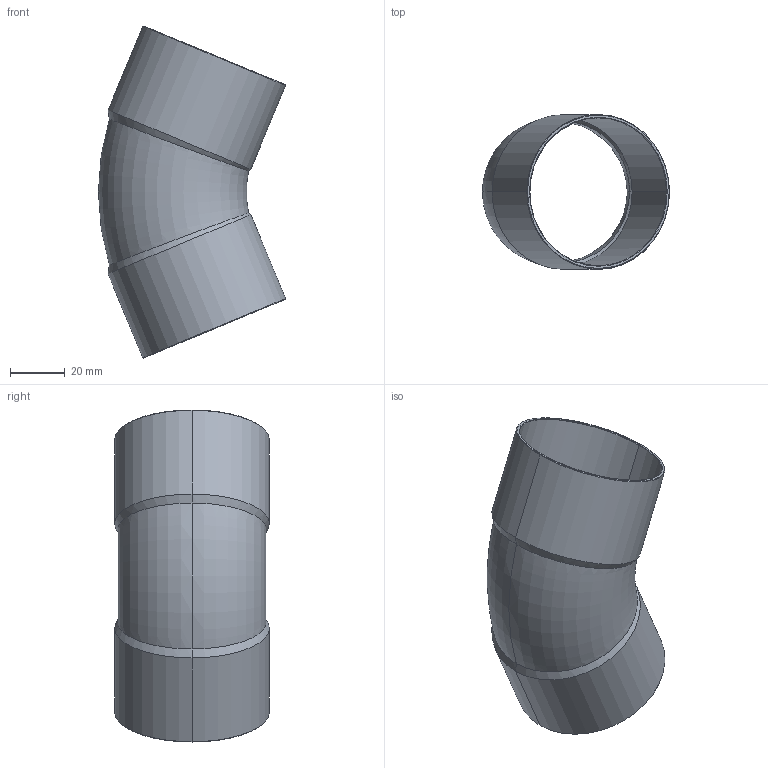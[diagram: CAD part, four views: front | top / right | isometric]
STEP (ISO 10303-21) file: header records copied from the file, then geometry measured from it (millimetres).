
FILE_DESCRIPTION((''),'2;1');
FILE_NAME('P:\Bouwmaten\z-maattekeningen 3D\5000\5040\1504154.stp','2005-10-12T15:38:59',('Kris'),(''),'Autodesk Inventor 8','Autodesk Inventor 8','');
FILE_SCHEMA(('AUTOMOTIVE_DESIGN { 1 0 10303 214 1 1 1 1 }'));
Length unit declared in the file: millimetre
Products named in the file (1): 1504154
Bounding box: 68.3 x 56.4 x 121.21 mm (x, y, z)
Volume: 21664.5 mm3; surface area: 36465.1 mm2
Topology: 1 solids, 1 shells, 30 faces, 60 edges, 32 vertices
Faces by surface type: cone 12, bspline 9, torus 4, cylinder 4, plane 1
Entity records: 1027 total; most frequent: CARTESIAN_POINT 414, DIRECTION 124, ORIENTED_EDGE 120, EDGE_CURVE 60, AXIS2_PLACEMENT_3D 50, VERTEX_POINT 32, EDGE_LOOP 32, FACE_OUTER_BOUND 30
